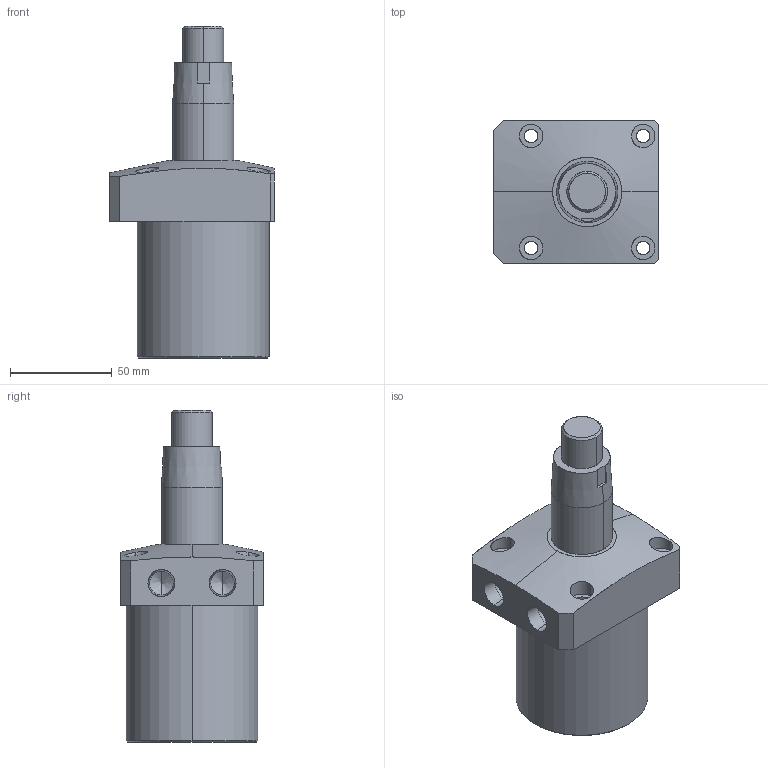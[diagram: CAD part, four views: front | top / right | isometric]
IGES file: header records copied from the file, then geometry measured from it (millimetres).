
Start section: SolidWorks IGES file using analytic representation for surfaces
Global section: file name: E:\ALL SSVT IGS MODEL\ALL-SWING-IGS\SWING.-65\SC02-651-RH-LH-TOP-TAPER\SC02-651-RH-TOP-TAPER.IGS; native system: SolidWorks 2019; preprocessor: SolidWorks 2019; author: SSVT; date: 210823.105108; units: millimetre
Bounding box: 81 x 70 x 163 mm (x, y, z)
Surface area: 53729.1 mm2 (no closed solid volume)
Topology: 0 solids, 0 shells, 73 faces, 1626 edges, 1622 vertices
Faces by surface type: revolution 48, bspline 25
